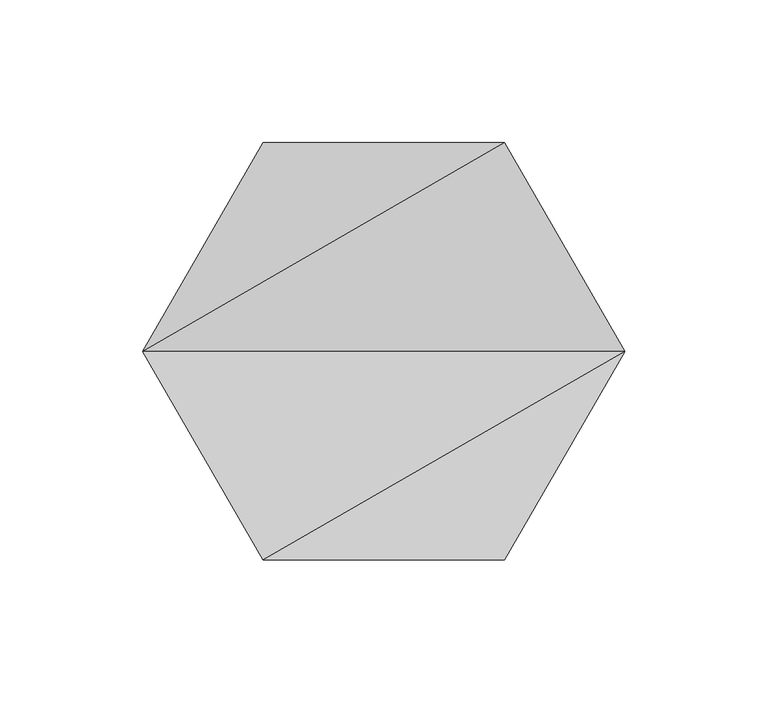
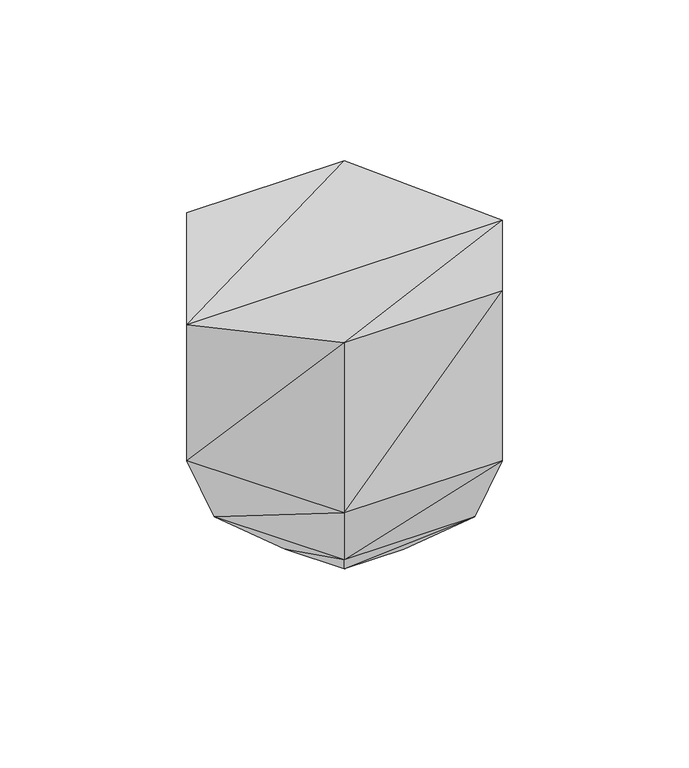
"""IFC4 building model written with IfcOpenShell, lengths in millimetres: geographic element geometry, Enscape AssetDefinition - Stack of Bowls 02 : Enscape AssetDefinition - Stack of Bowls 02."""

from ifc_helpers import new_model, si_unit, origin, place, context, project, spatial, faceted_brep, source, transform, mapped, element, save


def geographic_element_17db4b80(model_context):
    return source(origin(), model_context, "Body", "Brep", [
        faceted_brep([(34.8013788, 60.277231, 31.5585025), (31.6642523, 0.0, 0.0), (15.8324372, 27.422322, 0.0), (69.6027577, 0.0, 31.5585025), (15.8324372, -27.422322, 0.0), (0.0, 0.0, 0.0), (-34.8013788, 60.277231, 31.5585025), (-15.8324372, 27.422322, 0.0), (42.1717279, 73.0434582, 68.4680939), (-42.1717279, 73.0434582, 68.4680939), (-69.6027577, 0.0, 31.5585025), (-84.3434557, 0.0, 68.4680939), (-31.6642523, 0.0, 0.0), (-15.8324372, -27.422322, 0.0), (-34.8013788, -60.277231, 31.5585025), (-42.1717279, -73.0434582, 68.4680939), (-84.3434557, 0.0, 145.4667002), (-42.1717279, -73.0434582, 164.6029949), (42.1717279, -73.0434582, 68.4680939), (42.1717279, -73.0434582, 164.6029949), (34.8013788, -60.277231, 31.5585025), (84.3434557, 0.0, 68.4680939), (84.3434557, 0.0, 145.4667002), (42.1717279, 73.0434582, 149.6053785), (-42.1717279, 73.0434582, 149.6053785)], [[[0, 1, 2]], [[1, 0, 3]], [[3, 4, 1]], [[5, 2, 1]], [[5, 1, 4]], [[6, 2, 7]], [[2, 6, 0]], [[5, 7, 2]], [[8, 3, 0]], [[9, 0, 6]], [[0, 9, 8]], [[7, 10, 6]], [[11, 6, 10]], [[6, 11, 9]], [[10, 7, 12]], [[5, 12, 7]], [[5, 4, 13]], [[5, 13, 12]], [[14, 12, 13]], [[12, 14, 10]], [[15, 10, 14]], [[10, 15, 11]], [[16, 9, 11]], [[17, 11, 15]], [[11, 17, 16]], [[14, 18, 15]], [[19, 15, 18]], [[15, 19, 17]], [[13, 20, 14]], [[18, 14, 20]], [[20, 13, 4]], [[4, 3, 20]], [[21, 20, 3]], [[20, 21, 18]], [[22, 18, 21]], [[18, 22, 19]], [[22, 17, 19]], [[17, 22, 16]], [[21, 23, 22]], [[23, 16, 22]], [[3, 8, 21]], [[23, 21, 8]], [[8, 24, 23]], [[16, 23, 24]], [[24, 8, 9]], [[9, 16, 24]]]),
    ])


if __name__ == "__main__":
    model = new_model("IFC4")
    model_context = context("Model", 3, world=origin())
    ifc_project = project(units=[si_unit("LENGTHUNIT", "METRE", prefix="MILLI")], contexts=[model_context])
    site = spatial("IfcSite", under=ifc_project)
    building = spatial("IfcBuilding", under=site)
    placement = place(None, origin())
    geographic_element_shape = geographic_element_17db4b80(model_context)
    element("IfcGeographicElement", 1, ObjectType="Enscape AssetDefinition - Stack of Bowls 02 : Enscape AssetDefinition - Stack of Bowls 02", at=placement, inside=building, context=model_context, shape_type="MappedRepresentation", body=[
        mapped(geographic_element_shape, transform((0.0, 0.0, 0.0), x_axis=(1.0, 0.0, 0.0), y_axis=(0.0, 1.0, 0.0), z_axis=(0.0, 0.0, 1.0))),
    ])
    save(model, "model.ifc")
